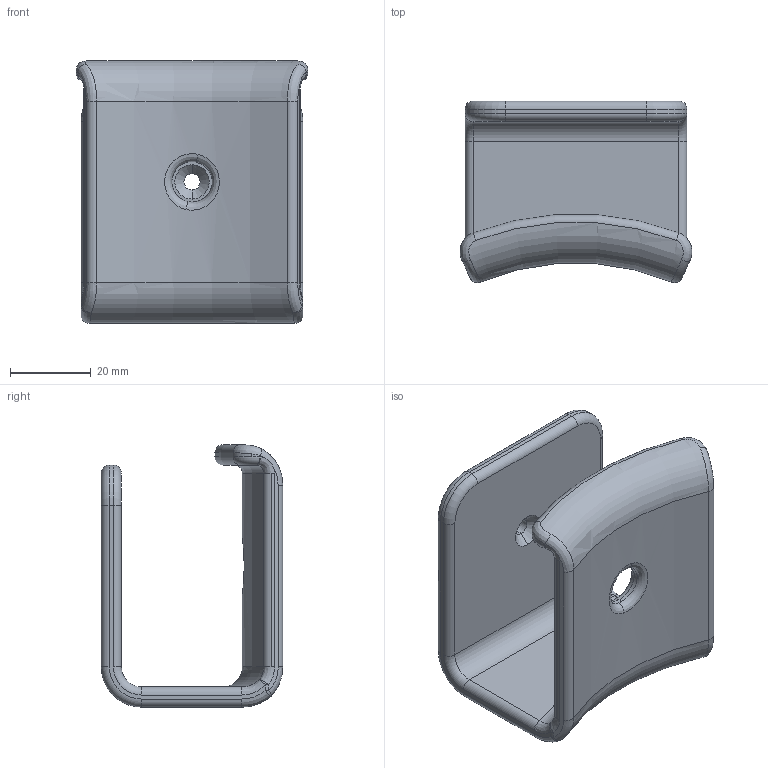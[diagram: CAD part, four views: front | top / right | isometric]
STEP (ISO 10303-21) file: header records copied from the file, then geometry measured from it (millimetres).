
FILE_DESCRIPTION (( 'STEP AP214' ), '1' );
FILE_NAME ('2018.04.02-HeadphoneMount.STEP', '2018-04-07T22:59:58', ( '' ), ( '' ), 'SwSTEP 2.0', 'SolidWorks 2017', '' );
FILE_SCHEMA (( 'AUTOMOTIVE_DESIGN' ));
Length unit declared in the file: millimetre
Products named in the file (1): 2018.04.02-HeadphoneMount
Bounding box: 57.47 x 45 x 65 mm (x, y, z)
Volume: 40722.7 mm3; surface area: 18307.2 mm2
Topology: 1 solids, 1 shells, 87 faces, 202 edges, 117 vertices
Faces by surface type: cylinder 31, bspline 20, torus 17, plane 12, sphere 5, cone 2
Entity records: 4143 total; most frequent: CARTESIAN_POINT 2239, ORIENTED_EDGE 404, DIRECTION 386, EDGE_CURVE 202, AXIS2_PLACEMENT_3D 167, VERTEX_POINT 117, CIRCLE 99, EDGE_LOOP 91
